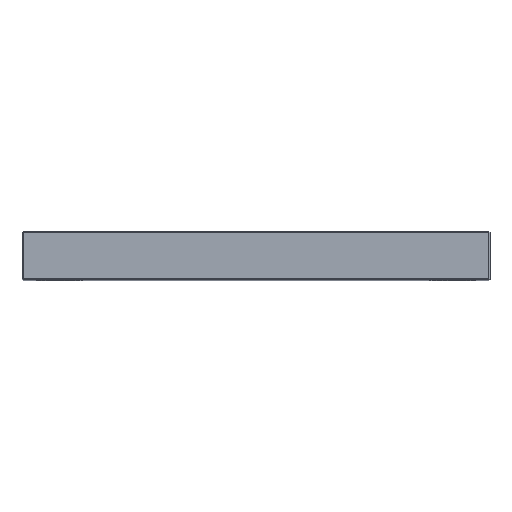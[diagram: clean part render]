
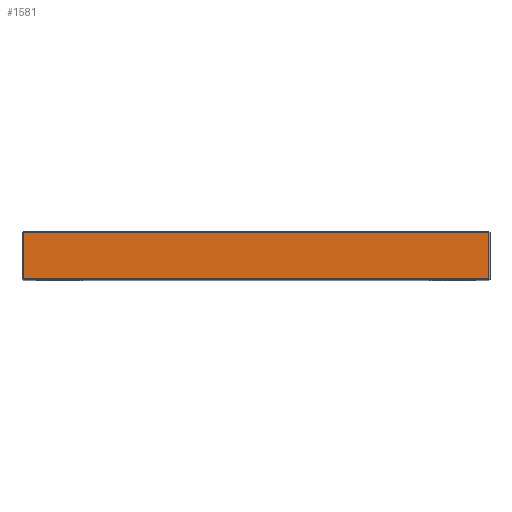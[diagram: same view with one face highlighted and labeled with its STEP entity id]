
A CAD part, top view. The second image highlights one B-rep face of the part: STEP entity #1581.
In plain terms, the highlighted planar face has unit normal (0, 0, 1).
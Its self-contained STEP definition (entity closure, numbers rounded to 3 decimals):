
#96 = CARTESIAN_POINT ( 'NONE',  ( 222., 46., 223. ) ) ;
#130 = CARTESIAN_POINT ( 'NONE',  ( -222., 1., 223. ) ) ;
#218 = VECTOR ( 'NONE', #257, 1000. ) ;
#231 = AXIS2_PLACEMENT_3D ( 'NONE', #720, #470, #461 ) ;
#247 = EDGE_CURVE ( 'NONE', #547, #820, #1135, .T. ) ;
#250 = CARTESIAN_POINT ( 'NONE',  ( -223., 45., 223. ) ) ;
#257 = DIRECTION ( 'NONE',  ( -1., 0., 0. ) ) ;
#284 = VECTOR ( 'NONE', #781, 1000. ) ;
#290 = ORIENTED_EDGE ( 'NONE', *, *, #247, .T. ) ;
#340 = EDGE_CURVE ( 'NONE', #1341, #1471, #1822, .T. ) ;
#441 = ORIENTED_EDGE ( 'NONE', *, *, #340, .T. ) ;
#461 = DIRECTION ( 'NONE',  ( -1., 0., 0. ) ) ;
#470 = DIRECTION ( 'NONE',  ( 0., 0., -1. ) ) ;
#497 = ORIENTED_EDGE ( 'NONE', *, *, #1631, .T. ) ;
#541 = EDGE_CURVE ( 'NONE', #1471, #547, #1469, .T. ) ;
#547 = VERTEX_POINT ( 'NONE', #130 ) ;
#609 = CARTESIAN_POINT ( 'NONE',  ( 223., 1., 223. ) ) ;
#706 = PLANE ( 'NONE',  #231 ) ;
#714 = CARTESIAN_POINT ( 'NONE',  ( -222., 46., 223. ) ) ;
#720 = CARTESIAN_POINT ( 'NONE',  ( 223., 46., 223. ) ) ;
#781 = DIRECTION ( 'NONE',  ( 0., -1., 0. ) ) ;
#820 = VERTEX_POINT ( 'NONE', #1524 ) ;
#843 = EDGE_LOOP ( 'NONE', ( #441, #1628, #290, #497 ) ) ;
#1090 = VECTOR ( 'NONE', #1424, 1000. ) ;
#1135 = LINE ( 'NONE', #609, #1090 ) ;
#1166 = DIRECTION ( 'NONE',  ( 0., 1., 0. ) ) ;
#1341 = VERTEX_POINT ( 'NONE', #1693 ) ;
#1364 = LINE ( 'NONE', #96, #1811 ) ;
#1424 = DIRECTION ( 'NONE',  ( 1., 0., 0. ) ) ;
#1469 = LINE ( 'NONE', #714, #284 ) ;
#1471 = VERTEX_POINT ( 'NONE', #1846 ) ;
#1524 = CARTESIAN_POINT ( 'NONE',  ( 222., 1., 223. ) ) ;
#1581 = ADVANCED_FACE ( 'NONE', ( #1610 ), #706, .F. ) ;
#1610 = FACE_OUTER_BOUND ( 'NONE', #843, .T. ) ;
#1628 = ORIENTED_EDGE ( 'NONE', *, *, #541, .T. ) ;
#1631 = EDGE_CURVE ( 'NONE', #820, #1341, #1364, .T. ) ;
#1693 = CARTESIAN_POINT ( 'NONE',  ( 222., 45., 223. ) ) ;
#1811 = VECTOR ( 'NONE', #1166, 1000. ) ;
#1822 = LINE ( 'NONE', #250, #218 ) ;
#1846 = CARTESIAN_POINT ( 'NONE',  ( -222., 45., 223. ) ) ;
